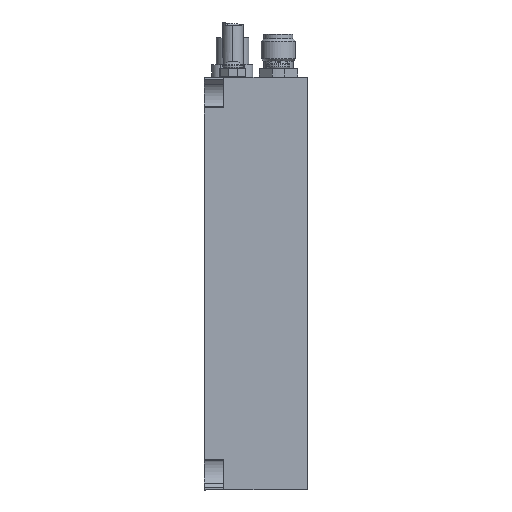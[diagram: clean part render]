
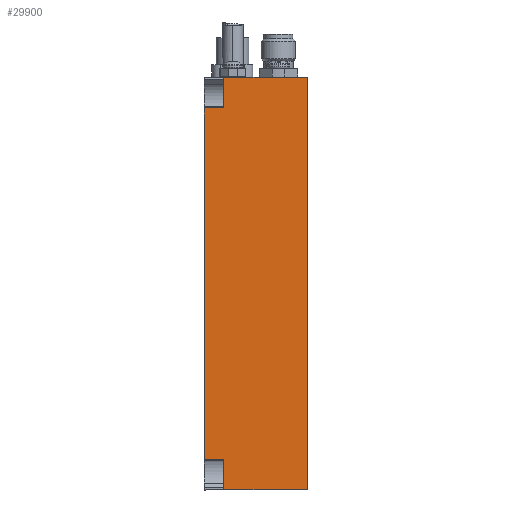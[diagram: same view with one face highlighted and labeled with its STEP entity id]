
A CAD part, left-side view. The second image highlights one B-rep face of the part: STEP entity #29900.
In plain terms, the highlighted planar face has unit normal (-1, 0, 0).
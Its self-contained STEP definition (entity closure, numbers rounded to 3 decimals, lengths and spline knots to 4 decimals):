
#1834 = EDGE_CURVE ( 'NONE', #3707, #7818, #12936, .T. ) ;
#1869 = LINE ( 'NONE', #16306, #43896 ) ;
#2371 = DIRECTION ( 'NONE',  ( 0., 0., -1. ) ) ;
#3033 = DIRECTION ( 'NONE',  ( 0., 0., 1. ) ) ;
#3707 = VERTEX_POINT ( 'NONE', #34490 ) ;
#3968 = VECTOR ( 'NONE', #14606, 39.3701 ) ;
#4797 = EDGE_CURVE ( 'NONE', #7818, #40158, #1869, .T. ) ;
#6114 = CARTESIAN_POINT ( 'NONE',  ( -0.2107, 1.4015, 3.7048 ) ) ;
#7241 = ORIENTED_EDGE ( 'NONE', *, *, #40129, .F. ) ;
#7818 = VERTEX_POINT ( 'NONE', #12705 ) ;
#9050 = LINE ( 'NONE', #35674, #3968 ) ;
#9826 = CARTESIAN_POINT ( 'NONE',  ( -0.2107, 2.1515, 0.9278 ) ) ;
#12353 = ORIENTED_EDGE ( 'NONE', *, *, #18786, .F. ) ;
#12705 = CARTESIAN_POINT ( 'NONE',  ( -0.2107, 2.0115, 0.9278 ) ) ;
#12936 = LINE ( 'NONE', #26647, #15759 ) ;
#13158 = DIRECTION ( 'NONE',  ( 0., 0., 1. ) ) ;
#13718 = CARTESIAN_POINT ( 'NONE',  ( -0.2107, 2.1515, 3.7048 ) ) ;
#14066 = ORIENTED_EDGE ( 'NONE', *, *, #1834, .F. ) ;
#14157 = EDGE_LOOP ( 'NONE', ( #7241, #31816, #14066, #41564, #32576, #39729, #12353, #26291 ) ) ;
#14606 = DIRECTION ( 'NONE',  ( 0., -1., 0. ) ) ;
#14840 = VECTOR ( 'NONE', #13158, 39.3701 ) ;
#15054 = VERTEX_POINT ( 'NONE', #26156 ) ;
#15421 = EDGE_CURVE ( 'NONE', #15054, #37491, #25285, .T. ) ;
#15759 = VECTOR ( 'NONE', #46247, 39.3701 ) ;
#16306 = CARTESIAN_POINT ( 'NONE',  ( -0.2107, 2.0115, 0.9278 ) ) ;
#17142 = LINE ( 'NONE', #45813, #14840 ) ;
#17289 = LINE ( 'NONE', #31758, #38006 ) ;
#18666 = AXIS2_PLACEMENT_3D ( 'NONE', #20145, #23222, #2371 ) ;
#18786 = EDGE_CURVE ( 'NONE', #27054, #31055, #17289, .T. ) ;
#19258 = DIRECTION ( 'NONE',  ( 0., 1., 0. ) ) ;
#20145 = CARTESIAN_POINT ( 'NONE',  ( -0.2107, 2.1515, 0.7048 ) ) ;
#20605 = FACE_OUTER_BOUND ( 'NONE', #14157, .T. ) ;
#20669 = EDGE_CURVE ( 'NONE', #3707, #15054, #9050, .T. ) ;
#21562 = CARTESIAN_POINT ( 'NONE',  ( -0.2107, 2.0115, 3.7048 ) ) ;
#21569 = CARTESIAN_POINT ( 'NONE',  ( -0.2107, 2.0115, 3.4818 ) ) ;
#23222 = DIRECTION ( 'NONE',  ( 1., 0., 0. ) ) ;
#25285 = LINE ( 'NONE', #32421, #29987 ) ;
#26156 = CARTESIAN_POINT ( 'NONE',  ( -0.2107, 1.4015, 0.7048 ) ) ;
#26291 = ORIENTED_EDGE ( 'NONE', *, *, #44293, .T. ) ;
#26647 = CARTESIAN_POINT ( 'NONE',  ( -0.2107, 2.0115, 0.7048 ) ) ;
#27054 = VERTEX_POINT ( 'NONE', #21569 ) ;
#28141 = DIRECTION ( 'NONE',  ( 0., -1., 0. ) ) ;
#29900 = ADVANCED_FACE ( 'NONE', ( #20605 ), #42189, .F. ) ;
#29987 = VECTOR ( 'NONE', #3033, 39.3701 ) ;
#30174 = CARTESIAN_POINT ( 'NONE',  ( -0.2107, 2.0115, 3.4818 ) ) ;
#30965 = VECTOR ( 'NONE', #19258, 39.3701 ) ;
#31055 = VERTEX_POINT ( 'NONE', #21562 ) ;
#31097 = CARTESIAN_POINT ( 'NONE',  ( -0.2107, 2.1515, 3.4818 ) ) ;
#31739 = DIRECTION ( 'NONE',  ( 0., 1., 0. ) ) ;
#31758 = CARTESIAN_POINT ( 'NONE',  ( -0.2107, 2.0115, 3.7048 ) ) ;
#31816 = ORIENTED_EDGE ( 'NONE', *, *, #4797, .F. ) ;
#32421 = CARTESIAN_POINT ( 'NONE',  ( -0.2107, 1.4015, 0.7048 ) ) ;
#32576 = ORIENTED_EDGE ( 'NONE', *, *, #15421, .T. ) ;
#33051 = EDGE_CURVE ( 'NONE', #31055, #37491, #46159, .T. ) ;
#34490 = CARTESIAN_POINT ( 'NONE',  ( -0.2107, 2.0115, 0.7048 ) ) ;
#34736 = VECTOR ( 'NONE', #28141, 39.3701 ) ;
#35674 = CARTESIAN_POINT ( 'NONE',  ( -0.2107, 2.1515, 0.7048 ) ) ;
#37491 = VERTEX_POINT ( 'NONE', #6114 ) ;
#38006 = VECTOR ( 'NONE', #46191, 39.3701 ) ;
#39729 = ORIENTED_EDGE ( 'NONE', *, *, #33051, .F. ) ;
#40129 = EDGE_CURVE ( 'NONE', #40158, #42221, #17142, .T. ) ;
#40158 = VERTEX_POINT ( 'NONE', #9826 ) ;
#41564 = ORIENTED_EDGE ( 'NONE', *, *, #20669, .T. ) ;
#42189 = PLANE ( 'NONE',  #18666 ) ;
#42221 = VERTEX_POINT ( 'NONE', #31097 ) ;
#43689 = LINE ( 'NONE', #30174, #30965 ) ;
#43896 = VECTOR ( 'NONE', #31739, 39.3701 ) ;
#44293 = EDGE_CURVE ( 'NONE', #27054, #42221, #43689, .T. ) ;
#45813 = CARTESIAN_POINT ( 'NONE',  ( -0.2107, 2.1515, 0.7048 ) ) ;
#46159 = LINE ( 'NONE', #13718, #34736 ) ;
#46191 = DIRECTION ( 'NONE',  ( 0., 0., 1. ) ) ;
#46247 = DIRECTION ( 'NONE',  ( 0., 0., 1. ) ) ;
